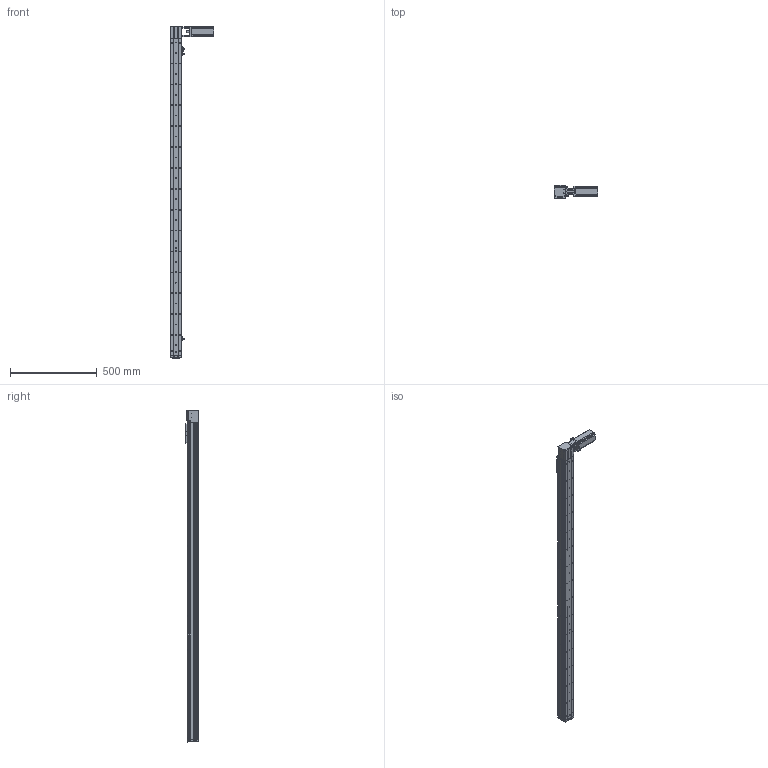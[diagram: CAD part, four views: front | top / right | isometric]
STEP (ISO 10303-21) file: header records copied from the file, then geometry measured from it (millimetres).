
FILE_DESCRIPTION (( 'STEP AP214' ), '1' );
FILE_NAME ('KSD68BS-S1650-MRT-CR.STEP', '2019-11-07T06:58:10', ( '微软用户' ), ( '微软中国' ), 'SwSTEP 2.0', 'SolidWorks 2014', '' );
FILE_SCHEMA (( 'AUTOMOTIVE_DESIGN' ));
Length unit declared in the file: millimetre
Products named in the file (13): 100遵鎮湛假蚾啣1; KSD68BS 1650行程盖板全封闭; 68遵裔啣揤啣1; 68宽单导轨全封闭丝杆传动安装板1防护罩; KSD68BS 1650行程侧板全封闭; 68宽单导轨全封闭同步带端板; 68单导轨全封闭同步带电机座左; 68单导轨全封闭同步带安装板; 感应片68宽全封闭; U倰嫖萇EEㄜSX672; 台达ECMA－C20604AS伺服电机（400W); KSD68BS 1650行程底板全封闭; KSD68BS-S1650-MRT-CR
Assembly tree (16 placements, depth 2):
  KSD68BS-S1650-MRT-CR
    KSD68BS 1650行程底板全封闭
    台达ECMA－C20604AS伺服电机（400W)
    U倰嫖萇EEㄜSX672  x3
    感应片68宽全封闭
    68单导轨全封闭同步带安装板
    68单导轨全封闭同步带电机座左
    68宽单导轨全封闭同步带端板
    KSD68BS 1650行程侧板全封闭  x2
    68宽单导轨全封闭丝杆传动安装板1防护罩
    68遵裔啣揤啣1  x2
    KSD68BS 1650行程盖板全封闭
    100遵鎮湛假蚾啣1
Bounding box: 252.7 x 77 x 1908.1 mm (x, y, z)
Volume: 3360655.5 mm3; surface area: 1346931.7 mm2
Topology: 17 solids, 17 shells, 1561 faces, 4510 edges, 2868 vertices
Faces by surface type: cylinder 767, plane 602, cone 192
Entity records: 51234 total; most frequent: CARTESIAN_POINT 8945, DIRECTION 7545, ORIENTED_EDGE 7224, EDGE_CURVE 3612, AXIS2_PLACEMENT_3D 2760, VERTEX_POINT 2366, VECTOR 2025, LINE 2025
